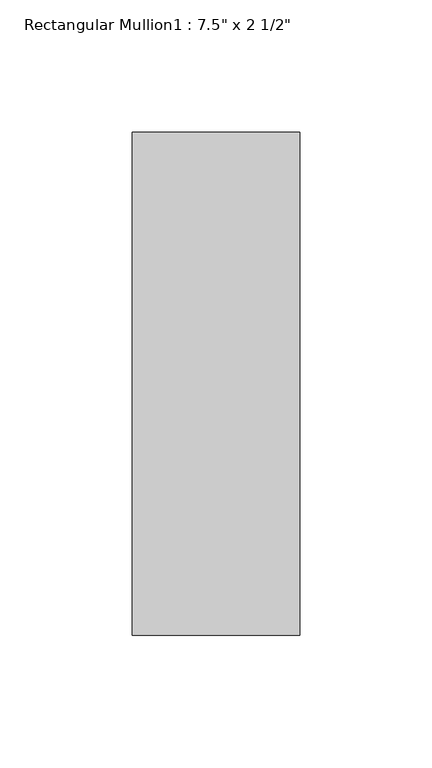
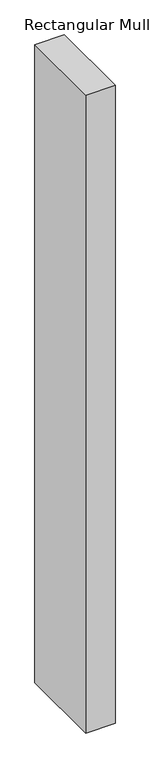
"""IFC4 building model written with IfcOpenShell, lengths in millimetres: member geometry."""

import ifcopenshell
import ifcopenshell.guid

model = None  # the IFC model being written
_history = None  # IfcOwnerHistory: only IFC2X3 demands one
_inside = {}  # id of a spatial element -> (the spatial element, [elements in it])
_under = {}  # id of a project, library or spatial element -> (it, [spatial elements below it])
_declared = {}  # id of a project -> (the project, [libraries it declares])
_typed = {}  # id of a type object -> (the type object, [elements of that type])
_made_of = {}  # id of a material, layer set ... -> (it, [elements and type objects made of it])


def new_model(schema):
    """Start an empty IFC model of exactly this schema.

    Asked for "IFC4X3", IfcOpenShell would pick the latest addendum, in which some entities
    have other attributes; the version numbers below select the first issue.
    IFC2X3 requires an IfcOwnerHistory on every rooted entity: one is made here for all.
    """
    global model, _history
    if schema == "IFC4X3":
        model = ifcopenshell.file(schema_version=(4, 3, 0, 0))
    else:
        model = ifcopenshell.file(schema=schema)
    _inside.clear()
    _under.clear()
    _declared.clear()
    _typed.clear()
    _made_of.clear()
    _history = None
    if model.schema == "IFC2X3":
        org = make("IfcOrganization", Name="unknown")
        user = make(
            "IfcPersonAndOrganization",
            ThePerson=make("IfcPerson", FamilyName="unknown"),
            TheOrganization=org,
        )
        app = make(
            "IfcApplication",
            ApplicationDeveloper=org,
            Version="unknown",
            ApplicationFullName="unknown",
            ApplicationIdentifier="unknown",
        )
        _history = make(
            "IfcOwnerHistory",
            OwningUser=user,
            OwningApplication=app,
            ChangeAction="ADDED",
            CreationDate=0,
        )
    return model


def make(cls, **values):
    """One entity of the class cls with the attributes given. An attribute that is None is left unset."""
    return model.create_entity(
        cls, **{name: value for name, value in values.items() if value is not None}
    )


def rooted(cls, **values):
    """An entity with a GlobalId (a new one), such as an element, a storey or a relation."""
    return make(cls, GlobalId=ifcopenshell.guid.new(), OwnerHistory=_history, **values)


def si_unit(unit_type, name, prefix=None):
    """IfcSIUnit, for example si_unit("LENGTHUNIT", "METRE", prefix="MILLI")."""
    return make("IfcSIUnit", UnitType=unit_type, Prefix=prefix, Name=name)


def assignment(units):
    """IfcUnitAssignment: the units of a project."""
    return None if units is None else make("IfcUnitAssignment", Units=units)


def point(xyz):
    """IfcCartesianPoint."""
    return None if xyz is None else make("IfcCartesianPoint", Coordinates=xyz)


def direction(xyz):
    """IfcDirection."""
    return None if xyz is None else make("IfcDirection", DirectionRatios=xyz)


def frame(location, z_axis=None, x_axis=None):
    """IfcAxis2Placement3D, a coordinate frame: its origin and axes. An axis left out is left unset."""
    return make(
        "IfcAxis2Placement3D",
        Location=point(location),
        Axis=direction(z_axis),
        RefDirection=direction(x_axis),
    )


def origin():
    """The frame at (0, 0, 0) with its axes left unset."""
    return frame((0.0, 0.0, 0.0))


def place(relative_to, where):
    """IfcLocalPlacement: puts the frame where relative to a parent placement (None: the world)."""
    return make(
        "IfcLocalPlacement", PlacementRelTo=relative_to, RelativePlacement=where
    )


def context(
    kind, dimensions, precision=None, world=None, true_north=None, identifier=None
):
    """IfcGeometricRepresentationContext, for example the 3D "Model" context."""
    return make(
        "IfcGeometricRepresentationContext",
        ContextIdentifier=identifier,
        ContextType=kind,
        CoordinateSpaceDimension=dimensions,
        Precision=precision,
        WorldCoordinateSystem=world,
        TrueNorth=true_north,
    )


def project(units=None, contexts=None):
    """IfcProject with its units and contexts."""
    return rooted(
        "IfcProject",
        Name="project",
        RepresentationContexts=contexts,
        UnitsInContext=assignment(units),
    )


def spatial(cls, under=None, at=None, **own):
    """A site, building, storey or space (cls), placed at a placement, below another one or the project."""
    s = rooted(cls, ObjectPlacement=at, **own)
    if under is not None:
        _under.setdefault(under.id(), (under, []))[1].append(s)
    return s


def polyline(points):
    """IfcPolyline through the points."""
    return make("IfcPolyline", Points=[point(p) for p in points])


def outline(outer, holes=None, kind="AREA"):
    """IfcArbitraryClosedProfileDef: a profile drawn as a closed curve; with holes, ...WithVoids."""
    if holes is None:
        return make("IfcArbitraryClosedProfileDef", ProfileType=kind, OuterCurve=outer)
    return make(
        "IfcArbitraryProfileDefWithVoids",
        ProfileType=kind,
        OuterCurve=outer,
        InnerCurves=holes,
    )


def extrude(swept, where, along, depth):
    """IfcExtrudedAreaSolid: the profile swept, set in the frame where, extruded along a direction by depth."""
    return make(
        "IfcExtrudedAreaSolid",
        SweptArea=swept,
        Position=where,
        ExtrudedDirection=direction(along),
        Depth=depth,
    )


def shape(context_of_items, identifier, shape_type, items):
    """IfcShapeRepresentation: the items that make up one representation, for example the "Body"."""
    return make(
        "IfcShapeRepresentation",
        ContextOfItems=context_of_items,
        RepresentationIdentifier=identifier,
        RepresentationType=shape_type,
        Items=items,
    )


def source(mapping_origin, context_of_items, identifier, shape_type, items):
    """IfcRepresentationMap: a shape defined once, which mapped items show again and again."""
    return make(
        "IfcRepresentationMap",
        MappingOrigin=mapping_origin,
        MappedRepresentation=shape(context_of_items, identifier, shape_type, items),
    )


def transform(
    local_origin,
    x_axis=None,
    y_axis=None,
    z_axis=None,
    scale=None,
    scale2=None,
    scale3=None,
    uniform=True,
):
    """IfcCartesianTransformationOperator3D, or its non-uniform kind. x_axis, y_axis, z_axis: its Axis1, 2, 3."""
    if uniform:
        return make(
            "IfcCartesianTransformationOperator3D",
            Axis1=direction(x_axis),
            Axis2=direction(y_axis),
            LocalOrigin=point(local_origin),
            Scale=scale,
            Axis3=direction(z_axis),
        )
    return make(
        "IfcCartesianTransformationOperator3DnonUniform",
        Axis1=direction(x_axis),
        Axis2=direction(y_axis),
        LocalOrigin=point(local_origin),
        Scale=scale,
        Axis3=direction(z_axis),
        Scale2=scale2,
        Scale3=scale3,
    )


def mapped(mapping_source, mapping_target):
    """IfcMappedItem: shows the shape of a source again, moved by a transform."""
    return make(
        "IfcMappedItem", MappingSource=mapping_source, MappingTarget=mapping_target
    )


def made_of(thing, what):
    """Note that an element or type object is made of a material, layer set ...; save() writes the relation."""
    if what is not None:
        _made_of.setdefault(what.id(), (what, []))[1].append(thing)
    return thing


def element(
    cls,
    number,
    at=None,
    inside=None,
    cuts=None,
    type_object=None,
    material=None,
    context=None,
    identifier="Body",
    shape_type=None,
    held_by="IfcProductDefinitionShape",
    body=None,
    shapes=None,
    **own,
):
    """One element of the class cls, such as IfcWall. Its Tag is "e" and its number.

    at: its placement. inside: the storey or other place that contains it. cuts: it is an
    opening in that element (IfcRelVoidsElement). A single representation is given by context,
    identifier, shape_type and body (its items); several are given by shapes. held_by: the class
    of the entity that holds the representations. save() writes the other relations.
    """
    e = rooted(cls, Tag="e%d" % number, ObjectPlacement=at, **own)
    if body is not None:
        shapes = [shape(context, identifier, shape_type, body)]
    if shapes is not None:
        e.Representation = make(held_by, Representations=shapes)
    if inside is not None:
        _inside.setdefault(inside.id(), (inside, []))[1].append(e)
    if cuts is not None:
        rooted(
            "IfcRelVoidsElement", RelatingBuildingElement=cuts, RelatedOpeningElement=e
        )
    if type_object is not None:
        _typed.setdefault(type_object.id(), (type_object, []))[1].append(e)
    return made_of(e, material)


def aggregate(whole, parts):
    """IfcRelAggregates: a whole, such as a stair, and the parts it consists of."""
    return rooted("IfcRelAggregates", RelatingObject=whole, RelatedObjects=parts)


def save(model, path):
    """Write the relations noted so far, then the file.

    IfcRelAggregates (storeys below a building ...), IfcRelContainedInSpatialStructure (elements
    in a storey), IfcRelDefinesByType, IfcRelAssociatesMaterial and IfcRelDeclares: one each for
    every whole, place, type object, material and project.
    """
    for whole, parts in _under.values():
        aggregate(whole, parts)
    for where, things in _inside.values():
        rooted(
            "IfcRelContainedInSpatialStructure",
            RelatedElements=things,
            RelatingStructure=where,
        )
    for kind, things in _typed.values():
        rooted("IfcRelDefinesByType", RelatedObjects=things, RelatingType=kind)
    for what, things in _made_of.values():
        rooted("IfcRelAssociatesMaterial", RelatedObjects=things, RelatingMaterial=what)
    for by, libraries in _declared.values():
        rooted("IfcRelDeclares", RelatingContext=by, RelatedDefinitions=libraries)
    model.write(path)


def member_aad8ae9f(model_context):
    return source(origin(), model_context, "Body", "SweptSolid", [
        extrude(outline(polyline([(31.75, -165.1), (-31.75, -165.1), (-31.75, 25.4), (31.75, 25.4), (31.75, -165.1)])), frame((0.0, 0.0, -1460.5), z_axis=(0.0, 0.0, 1.0), x_axis=(1.0, 0.0, 0.0)), (0.0, 0.0, 1.0), 1460.5),
    ])


if __name__ == "__main__":
    model = new_model("IFC4")
    model_context = context("Model", 3, world=origin())
    ifc_project = project(units=[si_unit("LENGTHUNIT", "METRE", prefix="MILLI")], contexts=[model_context])
    site = spatial("IfcSite", under=ifc_project)
    building = spatial("IfcBuilding", under=site)
    placement = place(None, origin())
    member_shape = member_aad8ae9f(model_context)
    element("IfcMember", 1, ObjectType="Rectangular Mullion1 : 7.5\" x 2 1/2\"", at=placement, inside=building, context=model_context, shape_type="MappedRepresentation", body=[
        mapped(member_shape, transform((0.0, 0.0, 0.0), x_axis=(1.0, 0.0, 0.0), y_axis=(0.0, 1.0, 0.0), z_axis=(0.0, 0.0, 1.0))),
    ])
    save(model, "model.ifc")
